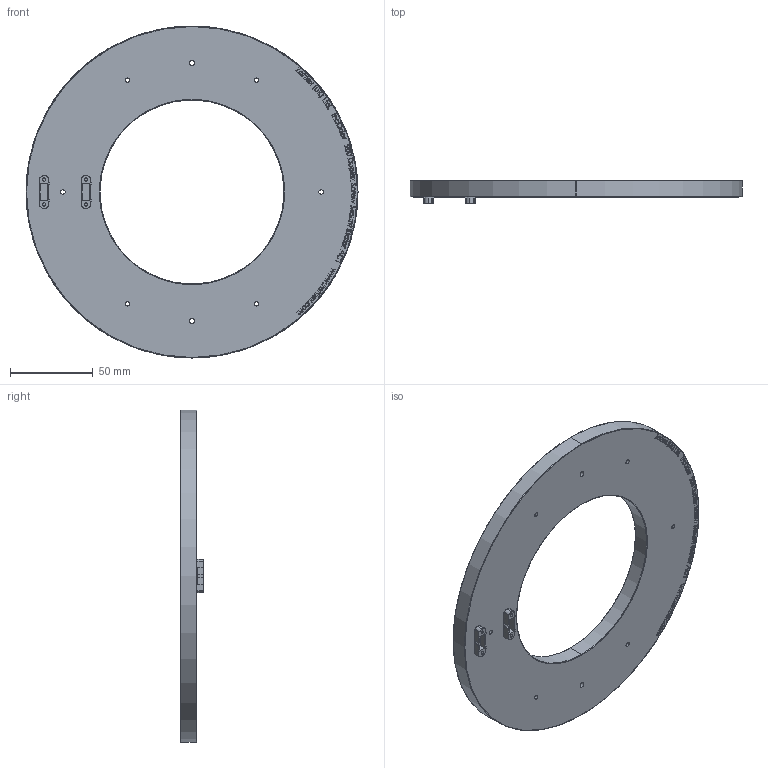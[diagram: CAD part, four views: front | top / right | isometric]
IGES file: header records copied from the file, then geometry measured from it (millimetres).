
Start section: SolidWorks IGES file using analytic representation for surfaces
Global section: file name: C:\Zettlex Data\Mechanical Drawings\1011\200 Duplex Screw Mount Stator AC1 Rev 1-2.IGS; native system: SolidWorks 2015; preprocessor: SolidWorks 2015; author: Nigel; date: 150914.153240; units: millimetre
Bounding box: 200 x 13.8 x 200 mm (x, y, z)
Surface area: 54656.7 mm2 (no closed solid volume)
Topology: 0 solids, 0 shells, 908 faces, 10793 edges, 10793 vertices
Faces by surface type: bspline 855, revolution 53
